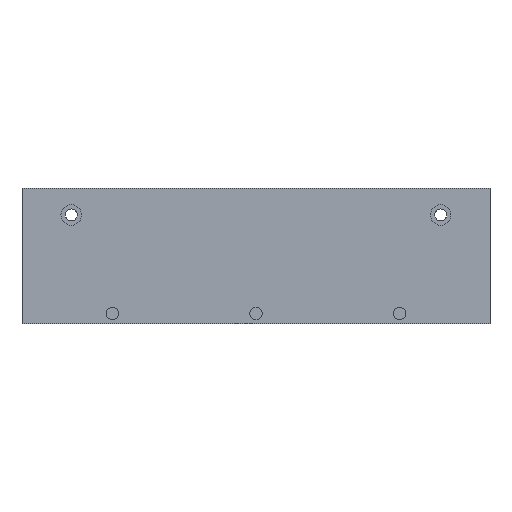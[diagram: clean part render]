
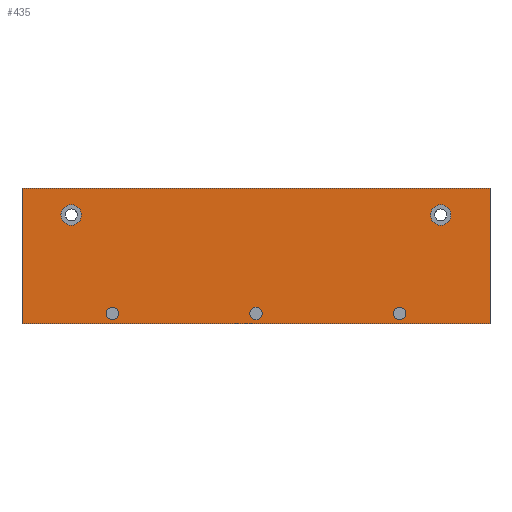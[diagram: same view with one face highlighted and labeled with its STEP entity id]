
A CAD part, left-side view. The second image highlights one B-rep face of the part: STEP entity #435.
In plain terms, the highlighted planar face has unit normal (-1, 0, 0).
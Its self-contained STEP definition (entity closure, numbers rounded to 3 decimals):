
#23=FACE_BOUND('',#112,.T.);
#24=FACE_BOUND('',#113,.T.);
#25=FACE_BOUND('',#114,.T.);
#26=FACE_BOUND('',#115,.T.);
#27=FACE_BOUND('',#116,.T.);
#42=PLANE('',#495);
#77=FACE_OUTER_BOUND('',#111,.T.);
#111=EDGE_LOOP('',(#399,#400,#401,#402));
#112=EDGE_LOOP('',(#403));
#113=EDGE_LOOP('',(#404));
#114=EDGE_LOOP('',(#405));
#115=EDGE_LOOP('',(#406));
#116=EDGE_LOOP('',(#407));
#131=LINE('',#685,#166);
#144=LINE('',#728,#179);
#147=LINE('',#734,#182);
#150=LINE('',#739,#185);
#166=VECTOR('',#562,10.);
#179=VECTOR('',#609,10.);
#182=VECTOR('',#614,10.);
#185=VECTOR('',#619,10.);
#194=CIRCLE('',#464,1.5);
#196=CIRCLE('',#468,1.5);
#198=CIRCLE('',#472,1.5);
#200=CIRCLE('',#479,2.5);
#203=CIRCLE('',#484,2.5);
#220=VERTEX_POINT('',#664);
#222=VERTEX_POINT('',#671);
#224=VERTEX_POINT('',#678);
#225=VERTEX_POINT('',#683);
#226=VERTEX_POINT('',#684);
#232=VERTEX_POINT('',#703);
#235=VERTEX_POINT('',#712);
#239=VERTEX_POINT('',#727);
#241=VERTEX_POINT('',#733);
#262=EDGE_CURVE('',#220,#220,#194,.T.);
#265=EDGE_CURVE('',#222,#222,#196,.T.);
#268=EDGE_CURVE('',#224,#224,#198,.T.);
#269=EDGE_CURVE('',#225,#226,#131,.T.);
#280=EDGE_CURVE('',#232,#232,#200,.T.);
#284=EDGE_CURVE('',#235,#235,#203,.T.);
#290=EDGE_CURVE('',#239,#225,#144,.T.);
#293=EDGE_CURVE('',#241,#239,#147,.T.);
#296=EDGE_CURVE('',#226,#241,#150,.T.);
#399=ORIENTED_EDGE('',*,*,#290,.F.);
#400=ORIENTED_EDGE('',*,*,#293,.F.);
#401=ORIENTED_EDGE('',*,*,#296,.F.);
#402=ORIENTED_EDGE('',*,*,#269,.F.);
#403=ORIENTED_EDGE('',*,*,#262,.T.);
#404=ORIENTED_EDGE('',*,*,#265,.T.);
#405=ORIENTED_EDGE('',*,*,#268,.T.);
#406=ORIENTED_EDGE('',*,*,#280,.T.);
#407=ORIENTED_EDGE('',*,*,#284,.T.);
#435=ADVANCED_FACE('',(#77,#23,#24,#25,#26,#27),#42,.F.);
#464=AXIS2_PLACEMENT_3D('',#666,#538,#539);
#468=AXIS2_PLACEMENT_3D('',#673,#547,#548);
#472=AXIS2_PLACEMENT_3D('',#680,#556,#557);
#479=AXIS2_PLACEMENT_3D('',#705,#580,#581);
#484=AXIS2_PLACEMENT_3D('',#714,#591,#592);
#495=AXIS2_PLACEMENT_3D('',#742,#623,#624);
#538=DIRECTION('center_axis',(1.,0.,0.));
#539=DIRECTION('ref_axis',(0.,1.,0.));
#547=DIRECTION('center_axis',(1.,0.,0.));
#548=DIRECTION('ref_axis',(0.,1.,0.));
#556=DIRECTION('center_axis',(1.,0.,0.));
#557=DIRECTION('ref_axis',(0.,1.,0.));
#562=DIRECTION('',(0.,1.,0.));
#580=DIRECTION('center_axis',(1.,0.,0.));
#581=DIRECTION('ref_axis',(0.,1.,0.));
#591=DIRECTION('center_axis',(1.,0.,0.));
#592=DIRECTION('ref_axis',(0.,1.,0.));
#609=DIRECTION('',(0.,0.,-1.));
#614=DIRECTION('',(0.,-1.,0.));
#619=DIRECTION('',(0.,0.,1.));
#623=DIRECTION('center_axis',(1.,0.,0.));
#624=DIRECTION('ref_axis',(0.,1.,0.));
#664=CARTESIAN_POINT('',(0.,20.5,2.5));
#666=CARTESIAN_POINT('Origin',(0.,22.,2.5));
#671=CARTESIAN_POINT('',(0.,55.5,2.5));
#673=CARTESIAN_POINT('Origin',(0.,57.,2.5));
#678=CARTESIAN_POINT('',(0.,90.5,2.5));
#680=CARTESIAN_POINT('Origin',(0.,92.,2.5));
#683=CARTESIAN_POINT('',(0.,0.,0.));
#684=CARTESIAN_POINT('',(0.,114.,0.));
#685=CARTESIAN_POINT('',(0.,0.,0.));
#703=CARTESIAN_POINT('',(0.,99.5,26.5));
#705=CARTESIAN_POINT('Origin',(0.,102.,26.5));
#712=CARTESIAN_POINT('',(0.,9.5,26.5));
#714=CARTESIAN_POINT('Origin',(0.,12.,26.5));
#727=CARTESIAN_POINT('',(0.,0.,33.));
#728=CARTESIAN_POINT('',(0.,0.,33.));
#733=CARTESIAN_POINT('',(0.,114.,33.));
#734=CARTESIAN_POINT('',(0.,114.,33.));
#739=CARTESIAN_POINT('',(0.,114.,0.));
#742=CARTESIAN_POINT('Origin',(0.,57.,24.5));
